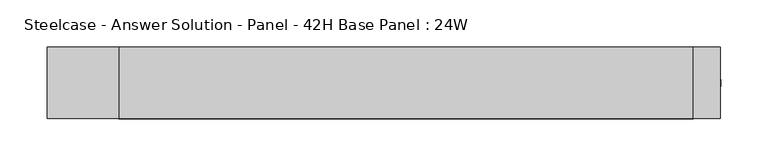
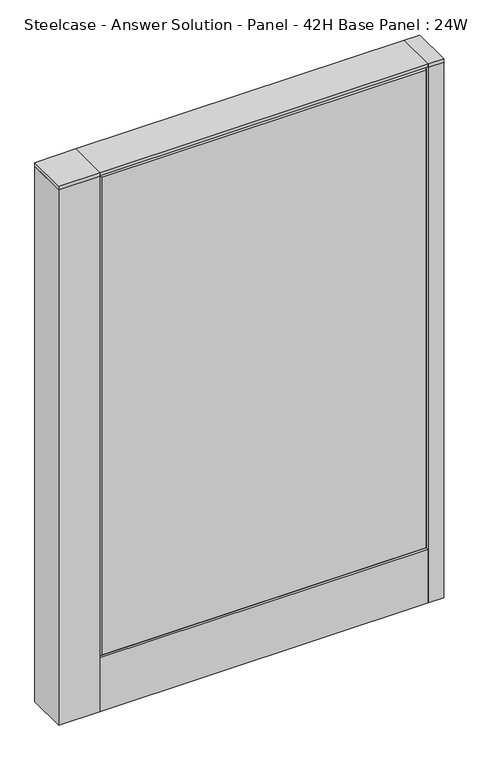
"""IFC4 building model written with IfcOpenShell, lengths in millimetres: furniture geometry, Steelcase - Answer Solution - Panel - 42H Base Panel : 24W."""

from ifc_helpers import new_model, si_unit, point, frame, frame_2d, origin, place, context, project, spatial, polyline, circle_curve, trimmed, segment, composite_curve, outline, extrude, faceted_brep, source, transform, mapped, element, save


def steelcase_answer_solution_panel_42h_base_panel_24w_d95fea91(model_context):
    return source(origin(), model_context, "Body", "SolidModel", [
        extrude(outline(composite_curve([segment(trimmed(circle_curve(frame_2d((319.024, 0.0039657)), 5.08), [point((324.104, 0.0039657))], [point((313.944, 0.0039657))], False, "CARTESIAN"), True, "CONTINUOUS"), segment(trimmed(circle_curve(frame_2d((319.024, 0.0039657)), 5.08), [point((313.944, 0.0039657))], [point((324.104, 0.0039657))], False, "CARTESIAN"), True, "CONTINUOUS")], self_intersect=False)), frame((0.0, 0.0, 5.0799671), z_axis=(0.0, 0.0, 1.0), x_axis=(1.0, 0.0, 0.0)), (0.0, 0.0, 1.0), 10.414),
        extrude(outline(composite_curve([segment(trimmed(circle_curve(frame_2d((319.024, 0.0039657)), 15.24), [point((334.264, 0.0039657))], [point((303.784, 0.0039657))], False, "CARTESIAN"), True, "CONTINUOUS"), segment(trimmed(circle_curve(frame_2d((319.024, 0.0039657)), 15.24), [point((303.784, 0.0039657))], [point((334.264, 0.0039657))], False, "CARTESIAN"), True, "CONTINUOUS")], self_intersect=False)), frame((0.0, 0.0, -3.29e-05), z_axis=(0.0, 0.0, 1.0), x_axis=(1.0, 0.0, 0.0)), (0.0, 0.0, 1.0), 5.08),
        extrude(outline(polyline([(333.375, 38.1039851), (333.375, -38.0960149), (304.8, -38.0960149), (304.8, 38.1039851), (333.375, 38.1039851)])), frame((0.0, 0.0, 1065.8348), z_axis=(0.0, 0.0, 1.0), x_axis=(1.0, 0.0, 0.0)), (0.0, 0.0, 1.0), 7.3151671),
        extrude(outline(polyline([(333.375, 38.1039851), (333.375, -38.0960149), (304.8, -38.0960149), (304.8, 38.1039851), (333.375, 38.1039851)])), frame((0.0, 0.0, 15.4939671), z_axis=(0.0, 0.0, 1.0), x_axis=(1.0, 0.0, 0.0)), (0.0, 0.0, 1.0), 1050.3408329),
        extrude(outline(composite_curve([segment(trimmed(circle_curve(frame_2d((-342.9, 0.0039657)), 5.08), [point((-347.98, 0.0039657))], [point((-337.82, 0.0039657))], False, "CARTESIAN"), True, "CONTINUOUS"), segment(trimmed(circle_curve(frame_2d((-342.9, 0.0039657)), 5.08), [point((-337.82, 0.0039657))], [point((-347.98, 0.0039657))], False, "CARTESIAN"), True, "CONTINUOUS")], self_intersect=False)), frame((0.0, 0.0, 5.0799671), z_axis=(0.0, 0.0, 1.0), x_axis=(1.0, 0.0, 0.0)), (0.0, 0.0, 1.0), 10.414),
        extrude(outline(composite_curve([segment(trimmed(circle_curve(frame_2d((-342.9, 0.0039657)), 15.24), [point((-358.14, 0.0039657))], [point((-327.66, 0.0039657))], False, "CARTESIAN"), True, "CONTINUOUS"), segment(trimmed(circle_curve(frame_2d((-342.9, 0.0039657)), 15.24), [point((-327.66, 0.0039657))], [point((-358.14, 0.0039657))], False, "CARTESIAN"), True, "CONTINUOUS")], self_intersect=False)), frame((0.0, 0.0, -3.29e-05), z_axis=(0.0, 0.0, 1.0), x_axis=(1.0, 0.0, 0.0)), (0.0, 0.0, 1.0), 5.08),
        extrude(outline(polyline([(-381.0, 38.1039851), (-304.8, 38.1039851), (-304.8, -38.0960149), (-381.0, -38.0960149), (-381.0, 38.1039851)])), frame((0.0, 0.0, 1065.8348), z_axis=(0.0, 0.0, 1.0), x_axis=(1.0, 0.0, 0.0)), (0.0, 0.0, 1.0), 7.3151671),
        extrude(outline(polyline([(-381.0, 38.1039851), (-304.8, 38.1039851), (-304.8, -38.0960149), (-381.0, -38.0960149), (-381.0, 38.1039851)])), frame((0.0, 0.0, 15.4939671), z_axis=(0.0, 0.0, 1.0), x_axis=(1.0, 0.0, 0.0)), (0.0, 0.0, 1.0), 1050.29),
        faceted_brep([(-299.974, 38.1635011, 1061.974), (299.974, 38.1635011, 1061.974), (299.974, 38.1635011, 125.476), (-299.974, 38.1635011, 125.476), (-304.8, 33.3375011, 1066.8), (-304.8, 33.3375011, 120.65), (304.8, 33.3375011, 120.65), (304.8, 33.3375011, 1066.8)], [[[0, 1, 2, 3]], [[4, 5, 6, 7]], [[4, 7, 1, 0]], [[7, 6, 2, 1]], [[6, 5, 3, 2]], [[5, 4, 0, 3]]]),
        faceted_brep([(299.974, -38.1635011, 1061.974), (-299.974, -38.1635011, 1061.974), (-299.974, -38.1635011, 125.476), (299.974, -38.1635011, 125.476), (304.8, -33.3375011, 1066.8), (304.8, -33.3375011, 120.65), (-304.8, -33.3375011, 120.65), (-304.8, -33.3375011, 1066.8)], [[[0, 1, 2, 3]], [[4, 5, 6, 7]], [[4, 7, 1, 0]], [[7, 6, 2, 1]], [[6, 5, 3, 2]], [[5, 4, 0, 3]]]),
        extrude(outline(polyline([(304.8, 38.1000194), (304.8, -38.1000194), (-304.8, -38.1000194), (-304.8, 38.1000194), (304.8, 38.1000194)])), frame((0.0, 0.0, 1066.8), z_axis=(0.0, 0.0, 1.0), x_axis=(1.0, 0.0, 0.0)), (0.0, 0.0, 1.0), 6.35),
        extrude(outline(polyline([(25.4000011, 119.8575157), (25.4000011, 120.65), (38.1000194, 120.65), (38.1000194, 15.494), (37.3075215, 15.494), (37.3075215, 119.8575157), (25.4000011, 119.8575157)])), frame((-304.8, 0.0, 0.0), z_axis=(1.0, 0.0, 0.0), x_axis=(0.0, 1.0, 0.0)), (0.0, 0.0, 1.0), 609.6),
        extrude(outline(polyline([(-25.4000011, 119.8575157), (-37.3075215, 119.8575157), (-37.3075215, 15.494), (-38.1000194, 15.494), (-38.1000194, 120.65), (-25.4000011, 120.65), (-25.4000011, 119.8575157)])), frame((-304.8, 0.0, 0.0), z_axis=(1.0, 0.0, 0.0), x_axis=(0.0, 1.0, 0.0)), (0.0, 0.0, 1.0), 609.6),
    ])


if __name__ == "__main__":
    model = new_model("IFC4")
    model_context = context("Model", 3, world=origin())
    ifc_project = project(units=[si_unit("LENGTHUNIT", "METRE", prefix="MILLI")], contexts=[model_context])
    site = spatial("IfcSite", under=ifc_project)
    building = spatial("IfcBuilding", under=site)
    placement = place(None, origin())
    steelcase_answer_solution_panel_42h_base_panel_24w_shape = steelcase_answer_solution_panel_42h_base_panel_24w_d95fea91(model_context)
    element("IfcFurniture", 1, ObjectType="Steelcase - Answer Solution - Panel - 42H Base Panel : 24W", at=placement, inside=building, context=model_context, shape_type="MappedRepresentation", body=[
        mapped(steelcase_answer_solution_panel_42h_base_panel_24w_shape, transform((0.0, 0.0, 0.0), x_axis=(1.0, 0.0, 0.0), y_axis=(0.0, 1.0, 0.0), z_axis=(0.0, 0.0, 1.0))),
    ])
    save(model, "model.ifc")
